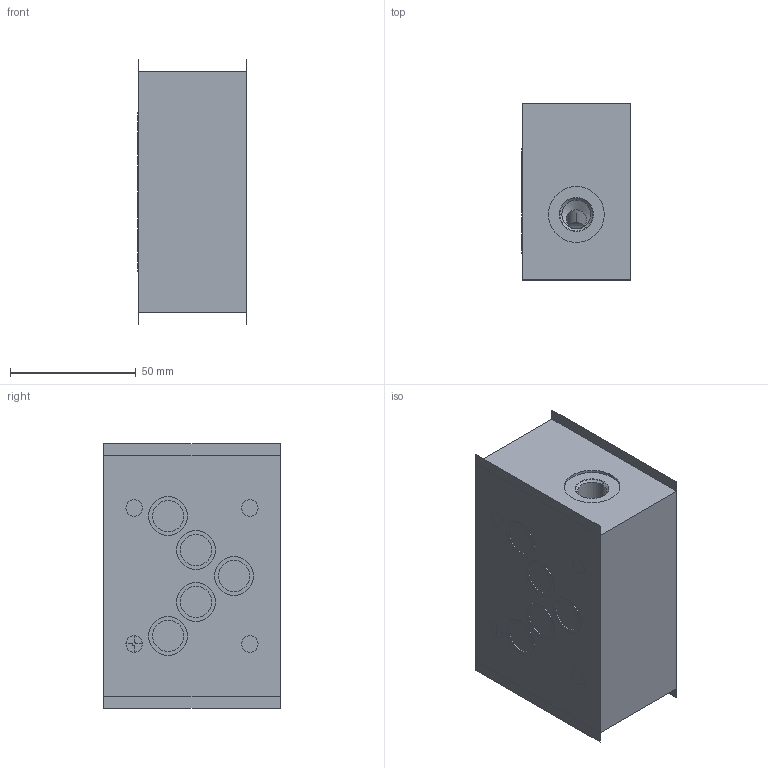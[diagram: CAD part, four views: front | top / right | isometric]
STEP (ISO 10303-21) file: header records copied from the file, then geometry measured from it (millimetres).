
FILE_DESCRIPTION((''),'2;1');
FILE_NAME('421713_ASM','2023-10-11T',('l.soukupova'),(''),'PRO/ENGINEER BY PARAMETRIC TECHNOLOGY CORPORATION, 2015440','PRO/ENGINEER BY PARAMETRIC TECHNOLOGY CORPORATION, 2015440','');
FILE_SCHEMA(('AUTOMOTIVE_DESIGN { 1 0 10303 214 1 1 1 1 }'));
Length unit declared in the file: millimetre
Products named in the file (7): 277903; DKAR00014_N70_AF10; DKAR00014_N70_AF11; DKAR00014_N70_AF12; DKAR00014_N70_AF13; DKAR00014_N70_AF14; 421713_ASM
Assembly tree (6 placements, depth 2):
  421713_ASM
    277903
    DKAR00014_N70_AF10
    DKAR00014_N70_AF11
    DKAR00014_N70_AF12
    DKAR00014_N70_AF13
    DKAR00014_N70_AF14
Bounding box: 43.28 x 70 x 105 mm (x, y, z)
Volume: 259114.7 mm3; surface area: 56499.6 mm2
Topology: 6 solids, 14 shells, 104 faces, 420 edges, 432 vertices
Faces by surface type: cylinder 64, plane 31, cone 9
Entity records: 7001 total; most frequent: CARTESIAN_POINT 1154, DIRECTION 882, PRESENTATION_STYLE_ASSIGNMENT 525, STYLED_ITEM 520, CURVE_STYLE 478, ORIENTED_EDGE 478, AXIS2_PLACEMENT_3D 319, EDGE_CURVE 255
